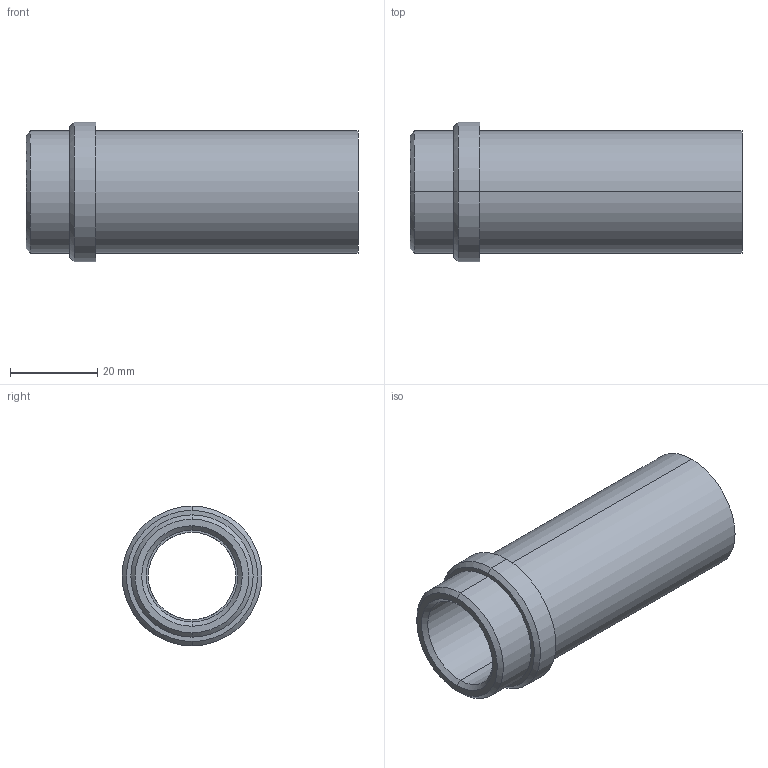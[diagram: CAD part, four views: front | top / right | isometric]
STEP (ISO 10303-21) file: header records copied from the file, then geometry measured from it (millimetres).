
FILE_DESCRIPTION(('CATIA V5 STEP Exchange'),'2;1');
FILE_NAME('C:\Users\Utente\Desktop\IO LAVORO\3D X SITO CF\X SITO\PLASTICA\358\358-20x76.stp','2021-04-08T12:44:23+00:00',('none'),('none'),'CATIA Version 5 Release 20 GA (IN-10)','CATIA V5 STEP AP203','none');
FILE_SCHEMA(('CONFIG_CONTROL_DESIGN'));
Length unit declared in the file: millimetre
Products named in the file (1): 358-20X76
Bounding box: 76 x 32 x 32 mm (x, y, z)
Volume: 22710.3 mm3; surface area: 12426.7 mm2
Topology: 1 solids, 1 shells, 23 faces, 74 edges, 56 vertices
Faces by surface type: cylinder 10, cone 6, plane 5, torus 2
Entity records: 1066 total; most frequent: CARTESIAN_POINT 378, ORIENTED_EDGE 148, DIRECTION 104, EDGE_CURVE 74, AXIS2_PLACEMENT_3D 66, VERTEX_POINT 56, CIRCLE 42, EDGE_LOOP 28
